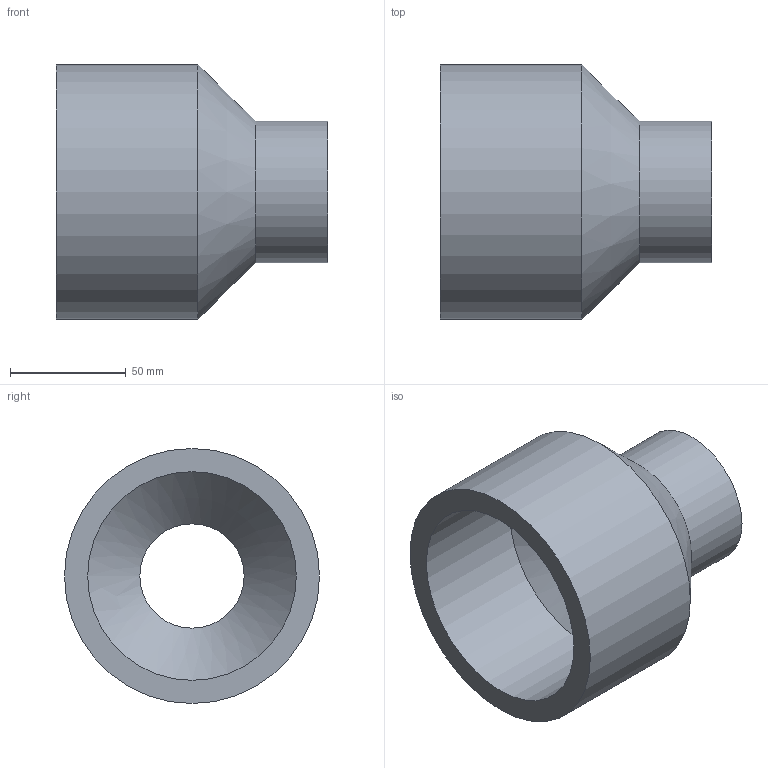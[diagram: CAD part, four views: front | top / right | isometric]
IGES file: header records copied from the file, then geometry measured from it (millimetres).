
Global section: file name: 050200110050.ipt; native system: Autodesk Inventor 2015; preprocessor: unknown; author: KIM; date: 20171207.164222; units: millimetre
Bounding box: 117 x 110 x 110 mm (x, y, z)
Volume: 328095.8 mm3; surface area: 68705.1 mm2
Topology: 1 solids, 1 shells, 10 faces, 23 edges, 16 vertices
Faces by surface type: revolution 4, plane 3, cylinder 2, cone 1
Full cylindrical faces by diameter (mm): 61 x1, 110 x1
